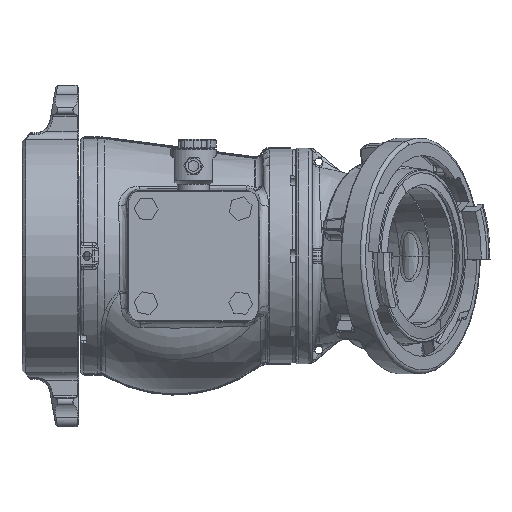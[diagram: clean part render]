
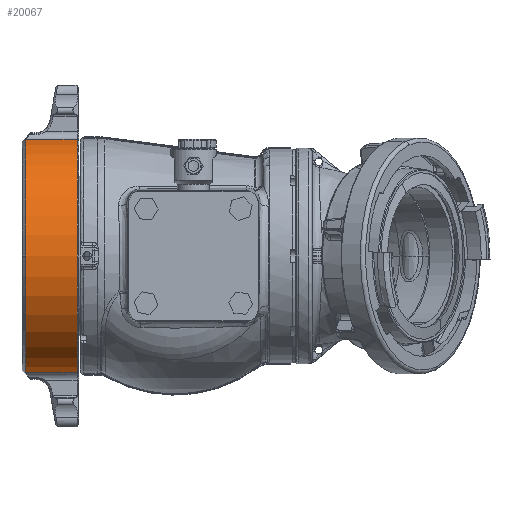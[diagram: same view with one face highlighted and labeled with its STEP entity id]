
A CAD part, front view. The second image highlights one B-rep face of the part: STEP entity #20067.
In plain terms, the highlighted cylindrical face has radius 98.425 mm (diameter 196.85 mm), a partial arc.
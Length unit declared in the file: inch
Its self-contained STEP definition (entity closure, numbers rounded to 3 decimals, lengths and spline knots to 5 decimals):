
#753 = ORIENTED_EDGE ( 'NONE', *, *, #18694, .T. ) ;
#754 = ORIENTED_EDGE ( 'NONE', *, *, #18696, .T. ) ;
#755 = ORIENTED_EDGE ( 'NONE', *, *, #18697, .F. ) ;
#756 = ORIENTED_EDGE ( 'NONE', *, *, #41191, .F. ) ;
#757 = ORIENTED_EDGE ( 'NONE', *, *, #18698, .F. ) ;
#4053 = CARTESIAN_POINT ( 'NONE',  ( -4.21165, -1.13098, -3.81329 ) ) ;
#4059 = CARTESIAN_POINT ( 'NONE',  ( -4.21165, -1.13098, 3.81329 ) ) ;
#4060 = CARTESIAN_POINT ( 'NONE',  ( -5.88715, -1.13098, -3.81329 ) ) ;
#5795 = CARTESIAN_POINT ( 'NONE',  ( -5.88715, -1.13098, 3.81329 ) ) ;
#5797 = CARTESIAN_POINT ( 'NONE',  ( -5.88715, -4.31719, 0. ) ) ;
#15177 = EDGE_LOOP ( 'NONE', ( #753, #754, #755, #756, #757 ) ) ;
#18694 = EDGE_CURVE ( 'NONE', #86583, #86576, #53566, .T. ) ;
#18696 = EDGE_CURVE ( 'NONE', #86576, #86582, #53564, .T. ) ;
#18697 = EDGE_CURVE ( 'NONE', #90522, #86582, #53567, .T. ) ;
#18698 = EDGE_CURVE ( 'NONE', #86583, #90523, #53569, .T. ) ;
#20067 = ADVANCED_FACE ( 'NONE', ( #53939 ), #53943, .T. ) ;
#23290 = AXIS2_PLACEMENT_3D ( 'NONE', #96098, #96099, #96100 ) ;
#23291 = AXIS2_PLACEMENT_3D ( 'NONE', #96103, #96104, #96105 ) ;
#23469 = AXIS2_PLACEMENT_3D ( 'NONE', #77215, #77211, #77200 ) ;
#41191 = EDGE_CURVE ( 'NONE', #90523, #90522, #58655, .T. ) ;
#53564 = CIRCLE ( 'NONE', #23290, 3.875 ) ;
#53566 = LINE ( 'NONE', #96068, #53568 ) ;
#53567 = LINE ( 'NONE', #96076, #53571 ) ;
#53568 = VECTOR ( 'NONE', #96070, 39.37008 ) ;
#53569 = CIRCLE ( 'NONE', #23291, 3.875 ) ;
#53571 = VECTOR ( 'NONE', #96081, 39.37008 ) ;
#53939 = FACE_OUTER_BOUND ( 'NONE', #15177, .T. ) ;
#53943 = CYLINDRICAL_SURFACE ( 'NONE', #23469, 3.875 ) ;
#58655 = CIRCLE ( 'NONE', #102306, 3.875 ) ;
#60748 = CARTESIAN_POINT ( 'NONE',  ( -5.88715, -0.44219, 0. ) ) ;
#60750 = DIRECTION ( 'NONE',  ( -1., 0., 0. ) ) ;
#60751 = DIRECTION ( 'NONE',  ( 0., 1., 0. ) ) ;
#77200 = DIRECTION ( 'NONE',  ( 0., 0., -1. ) ) ;
#77211 = DIRECTION ( 'NONE',  ( 1., 0., 0. ) ) ;
#77215 = CARTESIAN_POINT ( 'NONE',  ( -6.01215, -0.44219, 0. ) ) ;
#86576 = VERTEX_POINT ( 'NONE', #4053 ) ;
#86582 = VERTEX_POINT ( 'NONE', #4059 ) ;
#86583 = VERTEX_POINT ( 'NONE', #4060 ) ;
#90522 = VERTEX_POINT ( 'NONE', #5795 ) ;
#90523 = VERTEX_POINT ( 'NONE', #5797 ) ;
#96068 = CARTESIAN_POINT ( 'NONE',  ( -6.01215, -1.13098, -3.81329 ) ) ;
#96070 = DIRECTION ( 'NONE',  ( 1., 0., 0. ) ) ;
#96076 = CARTESIAN_POINT ( 'NONE',  ( -6.01215, -1.13098, 3.81329 ) ) ;
#96081 = DIRECTION ( 'NONE',  ( 1., 0., 0. ) ) ;
#96098 = CARTESIAN_POINT ( 'NONE',  ( -4.21165, -0.44219, 0. ) ) ;
#96099 = DIRECTION ( 'NONE',  ( -1., 0., 0. ) ) ;
#96100 = DIRECTION ( 'NONE',  ( 0., 0., -1. ) ) ;
#96103 = CARTESIAN_POINT ( 'NONE',  ( -5.88715, -0.44219, 0. ) ) ;
#96104 = DIRECTION ( 'NONE',  ( -1., 0., 0. ) ) ;
#96105 = DIRECTION ( 'NONE',  ( 0., 1., 0. ) ) ;
#102306 = AXIS2_PLACEMENT_3D ( 'NONE', #60748, #60750, #60751 ) ;
